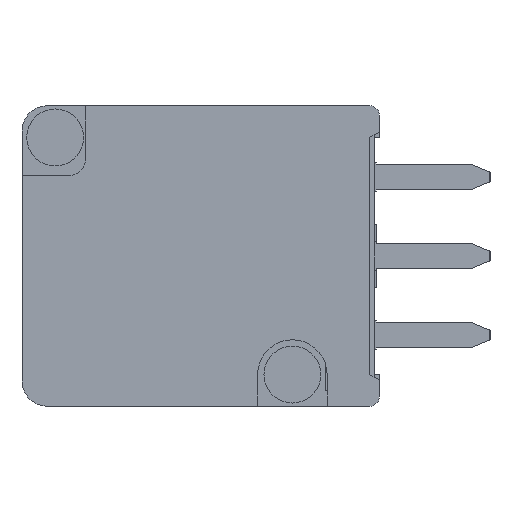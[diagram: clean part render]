
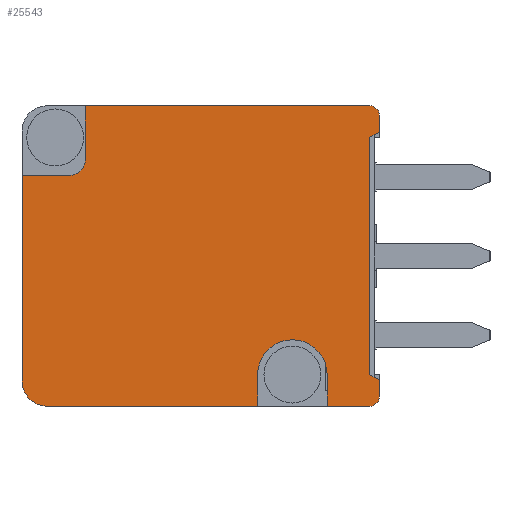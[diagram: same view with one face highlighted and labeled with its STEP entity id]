
A CAD part, left-side view. The second image highlights one B-rep face of the part: STEP entity #25543.
In plain terms, the highlighted planar face has unit normal (-1, 0, 0) as drawn and (0, 1, 0) by its records, which use the part's own axes.
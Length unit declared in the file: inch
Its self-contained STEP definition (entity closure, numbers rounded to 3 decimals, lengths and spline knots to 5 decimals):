
#129 = CARTESIAN_POINT ( 'NONE',  ( -0.10432, 0.56555, 0.22244 ) ) ;
#556 = LINE ( 'NONE', #7470, #26352 ) ;
#846 = CARTESIAN_POINT ( 'NONE',  ( 0.24607, 0.56555, 0.21063 ) ) ;
#1326 = LINE ( 'NONE', #26404, #21850 ) ;
#1469 = ORIENTED_EDGE ( 'NONE', *, *, #9682, .T. ) ;
#1576 = CARTESIAN_POINT ( 'NONE',  ( 0.22533, 0.56555, 0.22244 ) ) ;
#1699 = CARTESIAN_POINT ( 'NONE',  ( 0.25788, 0.56555, 0.22244 ) ) ;
#1792 = CARTESIAN_POINT ( 'NONE',  ( 0.19096, 0.56555, -0.1437 ) ) ;
#2105 = CARTESIAN_POINT ( 'NONE',  ( -0.08463, 0.56555, -0.22244 ) ) ;
#2324 = VERTEX_POINT ( 'NONE', #8930 ) ;
#2325 = CARTESIAN_POINT ( 'NONE',  ( 0.21851, 0.56555, 0.21063 ) ) ;
#2760 = DIRECTION ( 'NONE',  ( 0., 0., -1. ) ) ;
#2975 = ORIENTED_EDGE ( 'NONE', *, *, #21472, .F. ) ;
#3126 = CARTESIAN_POINT ( 'NONE',  ( -0.07676, 0.56555, 0.15748 ) ) ;
#3194 = CIRCLE ( 'NONE', #4131, 0.01969 ) ;
#3845 = CARTESIAN_POINT ( 'NONE',  ( 0.25788, 0.56555, 0.21063 ) ) ;
#3998 = EDGE_CURVE ( 'NONE', #7171, #11445, #10057, .T. ) ;
#4121 = DIRECTION ( 'NONE',  ( 0., 0., -1. ) ) ;
#4131 = AXIS2_PLACEMENT_3D ( 'NONE', #11915, #18741, #27669 ) ;
#4260 = DIRECTION ( 'NONE',  ( -1., 0., 0. ) ) ;
#4278 = CARTESIAN_POINT ( 'NONE',  ( -0.07676, 0.56555, 0.21063 ) ) ;
#4765 = ORIENTED_EDGE ( 'NONE', *, *, #27946, .F. ) ;
#5003 = DIRECTION ( 'NONE',  ( 0., 0., 1. ) ) ;
#5131 = EDGE_CURVE ( 'NONE', #13402, #17392, #21706, .T. ) ;
#5188 = VERTEX_POINT ( 'NONE', #4278 ) ;
#5323 = CARTESIAN_POINT ( 'NONE',  ( -0.07676, 0.56555, 0.07087 ) ) ;
#5485 = AXIS2_PLACEMENT_3D ( 'NONE', #25402, #6792, #23007 ) ;
#5882 = DIRECTION ( 'NONE',  ( 0., 1., 0. ) ) ;
#5916 = VERTEX_POINT ( 'NONE', #28388 ) ;
#5945 = CARTESIAN_POINT ( 'NONE',  ( 0.25788, 0.56555, -0.1437 ) ) ;
#6246 = DIRECTION ( 'NONE',  ( 1., 0., 0. ) ) ;
#6386 = ORIENTED_EDGE ( 'NONE', *, *, #12932, .T. ) ;
#6718 = LINE ( 'NONE', #1576, #13640 ) ;
#6792 = DIRECTION ( 'NONE',  ( 0., 1., 0. ) ) ;
#7171 = VERTEX_POINT ( 'NONE', #2105 ) ;
#7222 = CARTESIAN_POINT ( 'NONE',  ( -0.07676, 0.56555, 0.11417 ) ) ;
#7470 = CARTESIAN_POINT ( 'NONE',  ( -0.11613, 0.56555, 0.22244 ) ) ;
#8768 = ORIENTED_EDGE ( 'NONE', *, *, #23459, .F. ) ;
#8845 = VECTOR ( 'NONE', #20037, 39.37008 ) ;
#8862 = EDGE_LOOP ( 'NONE', ( #20960, #14296, #25498, #16053, #22040, #22000, #13930, #27130, #8768, #10155, #27755, #2975, #4765, #6386, #26478, #11177, #1469, #23938 ) ) ;
#8898 = EDGE_CURVE ( 'NONE', #17868, #5916, #556, .T. ) ;
#8930 = CARTESIAN_POINT ( 'NONE',  ( 0.22533, 0.56555, 0.22244 ) ) ;
#8987 = DIRECTION ( 'NONE',  ( 0., 0., -1. ) ) ;
#9307 = DIRECTION ( 'NONE',  ( 0., 1., 0. ) ) ;
#9534 = DIRECTION ( 'NONE',  ( 1., 0., 0. ) ) ;
#9682 = EDGE_CURVE ( 'NONE', #13402, #17142, #3194, .T. ) ;
#9687 = VERTEX_POINT ( 'NONE', #20681 ) ;
#10057 = CIRCLE ( 'NONE', #14794, 0.0315 ) ;
#10155 = ORIENTED_EDGE ( 'NONE', *, *, #10772, .F. ) ;
#10176 = VERTEX_POINT ( 'NONE', #19631 ) ;
#10611 = DIRECTION ( 'NONE',  ( -0.5, 0., -0.866 ) ) ;
#10772 = EDGE_CURVE ( 'NONE', #5188, #9687, #24658, .T. ) ;
#11177 = ORIENTED_EDGE ( 'NONE', *, *, #5131, .F. ) ;
#11202 = VERTEX_POINT ( 'NONE', #23247 ) ;
#11395 = AXIS2_PLACEMENT_3D ( 'NONE', #7222, #9307, #5003 ) ;
#11445 = VERTEX_POINT ( 'NONE', #17059 ) ;
#11506 = VECTOR ( 'NONE', #24488, 39.37008 ) ;
#11665 = CIRCLE ( 'NONE', #5485, 0.01181 ) ;
#11915 = CARTESIAN_POINT ( 'NONE',  ( 0.19096, 0.56555, -0.16339 ) ) ;
#12181 = LINE ( 'NONE', #19007, #22546 ) ;
#12291 = AXIS2_PLACEMENT_3D ( 'NONE', #846, #28114, #14595 ) ;
#12320 = DIRECTION ( 'NONE',  ( -1., 0., 0. ) ) ;
#12479 = CARTESIAN_POINT ( 'NONE',  ( 0.17127, 0.56555, -0.1437 ) ) ;
#12740 = DIRECTION ( 'NONE',  ( -1., 0., 0. ) ) ;
#12932 = EDGE_CURVE ( 'NONE', #11202, #22125, #20350, .T. ) ;
#12933 = LINE ( 'NONE', #28972, #27296 ) ;
#13018 = LINE ( 'NONE', #17643, #11506 ) ;
#13402 = VERTEX_POINT ( 'NONE', #1792 ) ;
#13428 = CARTESIAN_POINT ( 'NONE',  ( 0.07088, 0.56555, -0.03346 ) ) ;
#13640 = VECTOR ( 'NONE', #10611, 39.37008 ) ;
#13647 = EDGE_CURVE ( 'NONE', #16996, #11445, #1326, .T. ) ;
#13930 = ORIENTED_EDGE ( 'NONE', *, *, #8898, .F. ) ;
#14253 = EDGE_CURVE ( 'NONE', #5916, #25429, #18870, .T. ) ;
#14296 = ORIENTED_EDGE ( 'NONE', *, *, #3998, .T. ) ;
#14595 = DIRECTION ( 'NONE',  ( 0., 0., -1. ) ) ;
#14794 = AXIS2_PLACEMENT_3D ( 'NONE', #17332, #5882, #4121 ) ;
#14809 = EDGE_CURVE ( 'NONE', #25429, #10176, #28487, .T. ) ;
#15486 = DIRECTION ( 'NONE',  ( -1., 0., 0. ) ) ;
#15672 = PLANE ( 'NONE',  #20081 ) ;
#16053 = ORIENTED_EDGE ( 'NONE', *, *, #22834, .F. ) ;
#16504 = EDGE_CURVE ( 'NONE', #22955, #17142, #13018, .T. ) ;
#16626 = VECTOR ( 'NONE', #15486, 39.37008 ) ;
#16892 = DIRECTION ( 'NONE',  ( 0., 0., -1. ) ) ;
#16996 = VERTEX_POINT ( 'NONE', #23831 ) ;
#17059 = CARTESIAN_POINT ( 'NONE',  ( -0.11613, 0.56555, -0.19094 ) ) ;
#17142 = VERTEX_POINT ( 'NONE', #29311 ) ;
#17332 = CARTESIAN_POINT ( 'NONE',  ( -0.08463, 0.56555, -0.19094 ) ) ;
#17392 = VERTEX_POINT ( 'NONE', #5945 ) ;
#17643 = CARTESIAN_POINT ( 'NONE',  ( 0.17127, 0.56555, -0.22244 ) ) ;
#17764 = LINE ( 'NONE', #24610, #27317 ) ;
#17868 = VERTEX_POINT ( 'NONE', #25528 ) ;
#18741 = DIRECTION ( 'NONE',  ( 0., -1., 0. ) ) ;
#18854 = DIRECTION ( 'NONE',  ( 0., 0., 1. ) ) ;
#18870 = LINE ( 'NONE', #21258, #27582 ) ;
#19007 = CARTESIAN_POINT ( 'NONE',  ( 0.25788, 0.56555, 0.22244 ) ) ;
#19631 = CARTESIAN_POINT ( 'NONE',  ( -0.07676, 0.56555, 0.07087 ) ) ;
#20037 = DIRECTION ( 'NONE',  ( -0.5, 0., 0.866 ) ) ;
#20081 = AXIS2_PLACEMENT_3D ( 'NONE', #13428, #20267, #8987 ) ;
#20267 = DIRECTION ( 'NONE',  ( 0., -1., 0. ) ) ;
#20350 = CIRCLE ( 'NONE', #12291, 0.01181 ) ;
#20681 = CARTESIAN_POINT ( 'NONE',  ( -0.08358, 0.56555, 0.22244 ) ) ;
#20960 = ORIENTED_EDGE ( 'NONE', *, *, #26866, .F. ) ;
#21258 = CARTESIAN_POINT ( 'NONE',  ( -0.11613, 0.56555, 0.15748 ) ) ;
#21276 = DIRECTION ( 'NONE',  ( 1., 0., 0. ) ) ;
#21472 = EDGE_CURVE ( 'NONE', #2324, #25514, #6718, .T. ) ;
#21670 = LINE ( 'NONE', #25714, #29179 ) ;
#21706 = LINE ( 'NONE', #12479, #25871 ) ;
#21850 = VECTOR ( 'NONE', #16892, 39.37008 ) ;
#22000 = ORIENTED_EDGE ( 'NONE', *, *, #14253, .F. ) ;
#22040 = ORIENTED_EDGE ( 'NONE', *, *, #14809, .F. ) ;
#22125 = VERTEX_POINT ( 'NONE', #3845 ) ;
#22546 = VECTOR ( 'NONE', #12320, 39.37008 ) ;
#22799 = FACE_OUTER_BOUND ( 'NONE', #8862, .T. ) ;
#22834 = EDGE_CURVE ( 'NONE', #10176, #16996, #28618, .T. ) ;
#22955 = VERTEX_POINT ( 'NONE', #25381 ) ;
#23007 = DIRECTION ( 'NONE',  ( 0., 0., -1. ) ) ;
#23247 = CARTESIAN_POINT ( 'NONE',  ( 0.24607, 0.56555, 0.22244 ) ) ;
#23362 = VERTEX_POINT ( 'NONE', #129 ) ;
#23459 = EDGE_CURVE ( 'NONE', #9687, #23362, #26771, .T. ) ;
#23831 = CARTESIAN_POINT ( 'NONE',  ( -0.11613, 0.56555, 0.07087 ) ) ;
#23938 = ORIENTED_EDGE ( 'NONE', *, *, #16504, .F. ) ;
#24488 = DIRECTION ( 'NONE',  ( 0., 0., 1. ) ) ;
#24610 = CARTESIAN_POINT ( 'NONE',  ( 0.21851, 0.56555, 0.21063 ) ) ;
#24658 = LINE ( 'NONE', #24803, #8845 ) ;
#24803 = CARTESIAN_POINT ( 'NONE',  ( -0.07676, 0.56555, 0.21063 ) ) ;
#25381 = CARTESIAN_POINT ( 'NONE',  ( 0.17127, 0.56555, -0.22244 ) ) ;
#25402 = CARTESIAN_POINT ( 'NONE',  ( -0.10432, 0.56555, 0.21063 ) ) ;
#25429 = VERTEX_POINT ( 'NONE', #3126 ) ;
#25498 = ORIENTED_EDGE ( 'NONE', *, *, #13647, .F. ) ;
#25514 = VERTEX_POINT ( 'NONE', #2325 ) ;
#25528 = CARTESIAN_POINT ( 'NONE',  ( -0.11613, 0.56555, 0.21063 ) ) ;
#25543 = ADVANCED_FACE ( 'NONE', ( #22799 ), #15672, .F. ) ;
#25714 = CARTESIAN_POINT ( 'NONE',  ( 0.25788, 0.56555, -0.22244 ) ) ;
#25871 = VECTOR ( 'NONE', #21276, 39.37008 ) ;
#26352 = VECTOR ( 'NONE', #2760, 39.37008 ) ;
#26404 = CARTESIAN_POINT ( 'NONE',  ( -0.11613, 0.56555, 0.22244 ) ) ;
#26462 = EDGE_CURVE ( 'NONE', #17392, #22125, #21670, .T. ) ;
#26478 = ORIENTED_EDGE ( 'NONE', *, *, #26462, .F. ) ;
#26771 = LINE ( 'NONE', #1699, #16626 ) ;
#26866 = EDGE_CURVE ( 'NONE', #7171, #22955, #12933, .T. ) ;
#27071 = EDGE_CURVE ( 'NONE', #25514, #5188, #17764, .T. ) ;
#27130 = ORIENTED_EDGE ( 'NONE', *, *, #28155, .T. ) ;
#27296 = VECTOR ( 'NONE', #6246, 39.37008 ) ;
#27317 = VECTOR ( 'NONE', #4260, 39.37008 ) ;
#27582 = VECTOR ( 'NONE', #9534, 39.37008 ) ;
#27669 = DIRECTION ( 'NONE',  ( 0., 0., -1. ) ) ;
#27755 = ORIENTED_EDGE ( 'NONE', *, *, #27071, .F. ) ;
#27946 = EDGE_CURVE ( 'NONE', #11202, #2324, #12181, .T. ) ;
#28114 = DIRECTION ( 'NONE',  ( 0., 1., 0. ) ) ;
#28155 = EDGE_CURVE ( 'NONE', #17868, #23362, #11665, .T. ) ;
#28388 = CARTESIAN_POINT ( 'NONE',  ( -0.11613, 0.56555, 0.15748 ) ) ;
#28487 = CIRCLE ( 'NONE', #11395, 0.04331 ) ;
#28618 = LINE ( 'NONE', #5323, #28881 ) ;
#28881 = VECTOR ( 'NONE', #12740, 39.37008 ) ;
#28972 = CARTESIAN_POINT ( 'NONE',  ( -0.11613, 0.56555, -0.22244 ) ) ;
#29179 = VECTOR ( 'NONE', #18854, 39.37008 ) ;
#29311 = CARTESIAN_POINT ( 'NONE',  ( 0.17127, 0.56555, -0.16339 ) ) ;
